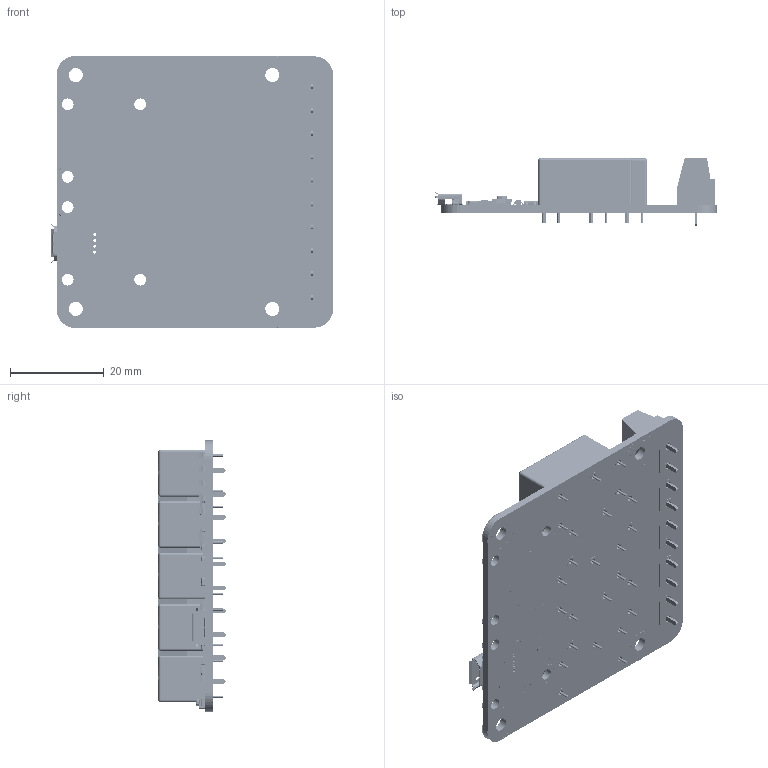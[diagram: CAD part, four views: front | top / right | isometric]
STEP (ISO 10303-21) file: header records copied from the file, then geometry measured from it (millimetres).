
FILE_DESCRIPTION (( 'STEP AP214' ), '1' );
FILE_NAME ('MXPWRRLY.STEP', '2014-09-28T07:08:58', ( 'martinm' ), ( 'Yoctopuce' ), 'SwSTEP 2.0', 'SolidWorks 2008', '' );
FILE_SCHEMA (( 'AUTOMOTIVE_DESIGN' ));
Length unit declared in the file: millimetre
Products named in the file (26): 2N7002,215; FAN4010IL6X_F113; ASMT-TGBM-NT502; ASMT-TBBM-NP902; ZX62-B-5PA(11); PIC24FJ64GB002-I_ML; NUD3105LT1G; KMR211NGLFS; PE014005; RK73H1JTTD4702F; CRCW0603100KJNEA; RK73H1JTTD1501F; MCP1703T-3302E_CB; CRCW0603100RJNEB; CRCW06031M00JNEB; C0805C105K4RACTU; WSLP0603R1000FEA; CRCW060310K0JNEB; 691_213_710_002; MXPWRRLY; C0603C106M9PACTU; C2012X7R2E472KT5; yoctomaxipowerrelayOutLine_Défaut; GRM188R60J105KA01D; GRM188R61C225KE15D; GRM188R71E104KA01D
Assembly tree (44 placements, depth 2):
  MXPWRRLY
    PE014005  x5
    KMR211NGLFS
    ASMT-TGBM-NT502  x5
    NUD3105LT1G  x5
    691_213_710_002  x5
    RK73H1JTTD4702F
    CRCW06031M00JNEB
    2N7002,215
    CRCW0603100RJNEB
    GRM188R71E104KA01D  x4
    CRCW0603100KJNEA
    C0805C105K4RACTU
    MCP1703T-3302E_CB
    WSLP0603R1000FEA
    yoctomaxipowerrelayOutLine_Défaut
    FAN4010IL6X_F113
    PIC24FJ64GB002-I_ML
    GRM188R60J105KA01D
    C2012X7R2E472KT5
    ASMT-TBBM-NP902
    GRM188R61C225KE15D
    ZX62-B-5PA(11)
    CRCW060310K0JNEB
    C0603C106M9PACTU
    RK73H1JTTD1501F
Bounding box: 60.35 x 14.41 x 58.25 mm (x, y, z)
Volume: 18628.9 mm3; surface area: 16368.5 mm2
Topology: 71 solids, 71 shells, 9177 faces, 23785 edges, 15594 vertices
Faces by surface type: plane 6117, cylinder 1619, bspline 1297, sphere 92, torus 52
Entity records: 230145 total; most frequent: CARTESIAN_POINT 57024, ORIENTED_EDGE 25848, DIRECTION 23839, EDGE_CURVE 12924, VECTOR 9251, LINE 9251, VERTEX_POINT 8498, AXIS2_PLACEMENT_3D 7294
